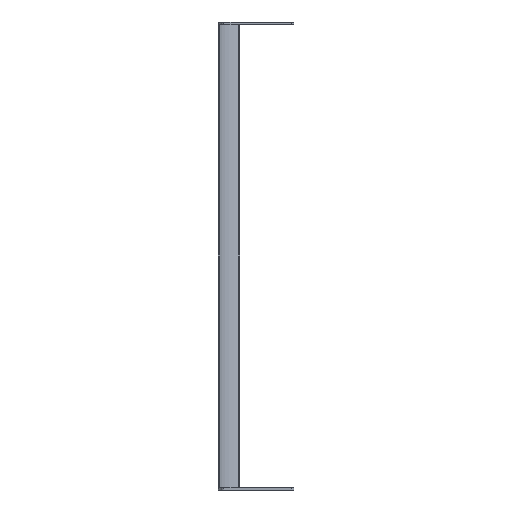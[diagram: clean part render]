
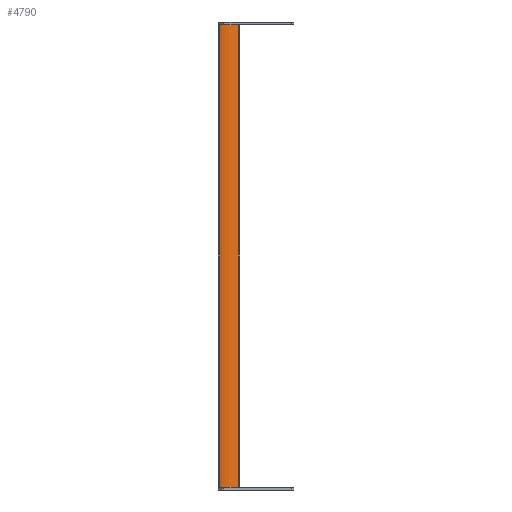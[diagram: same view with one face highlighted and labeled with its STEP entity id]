
A CAD part, left-side view. The second image highlights one B-rep face of the part: STEP entity #4790.
In plain terms, the highlighted cylindrical face has radius 40.64 mm (diameter 81.28 mm), a partial arc.
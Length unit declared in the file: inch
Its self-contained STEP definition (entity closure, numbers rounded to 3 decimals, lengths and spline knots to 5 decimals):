
#4489=DIRECTION('',(0.,0.,1.));
#4490=VECTOR('',#4489,22.236);
#4491=CARTESIAN_POINT('',(-0.98126,-0.05742,-11.118));
#4492=LINE('',#4491,#4490);
#4508=CARTESIAN_POINT('',(-1.63,-1.52,11.118));
#4509=DIRECTION('',(0.,0.,-1.));
#4510=DIRECTION('',(0.405,0.914,0.));
#4511=AXIS2_PLACEMENT_3D('',#4508,#4509,#4510);
#4556=CARTESIAN_POINT('',(-1.63,-1.52,-11.118));
#4557=DIRECTION('',(0.,0.,1.));
#4558=DIRECTION('',(0.946,0.325,0.));
#4559=AXIS2_PLACEMENT_3D('',#4556,#4557,#4558);
#4599=DIRECTION('',(0.,0.,1.));
#4600=VECTOR('',#4599,22.236);
#4601=CARTESIAN_POINT('',(-0.11675,-1.00032,-11.118));
#4602=LINE('',#4601,#4600);
#4639=CARTESIAN_POINT('',(-0.98126,-0.05742,11.118));
#4640=CARTESIAN_POINT('',(-0.11675,-1.00032,11.118));
#4641=VERTEX_POINT('',#4639);
#4642=VERTEX_POINT('',#4640);
#4655=CARTESIAN_POINT('',(-0.11675,-1.00032,-11.118));
#4656=VERTEX_POINT('',#4655);
#4677=CARTESIAN_POINT('',(-0.98126,-0.05742,-11.118));
#4678=VERTEX_POINT('',#4677);
#4778=CARTESIAN_POINT('',(-1.63,-1.52,11.118));
#4779=DIRECTION('',(0.,0.,-1.));
#4780=DIRECTION('',(-1.,0.,0.));
#4781=AXIS2_PLACEMENT_3D('',#4778,#4779,#4780);
#4782=CYLINDRICAL_SURFACE('',#4781,1.6);
#4783=ORIENTED_EDGE('',*,*,#4753,.T.);
#4784=ORIENTED_EDGE('',*,*,#4690,.T.);
#4785=ORIENTED_EDGE('',*,*,#4714,.T.);
#4787=ORIENTED_EDGE('',*,*,#4786,.F.);
#4788=EDGE_LOOP('',(#4783,#4784,#4785,#4787));
#4789=FACE_OUTER_BOUND('',#4788,.F.);
#4512=CIRCLE('',#4511,1.6);
#4560=CIRCLE('',#4559,1.6);
#4690=EDGE_CURVE('',#4678,#4641,#4492,.T.);
#4714=EDGE_CURVE('',#4641,#4642,#4512,.T.);
#4753=EDGE_CURVE('',#4656,#4678,#4560,.T.);
#4786=EDGE_CURVE('',#4656,#4642,#4602,.T.);
#4790=ADVANCED_FACE('',(#4789),#4782,.F.);
